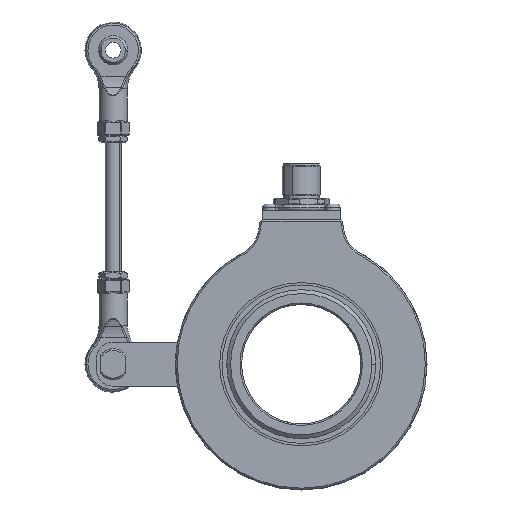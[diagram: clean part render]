
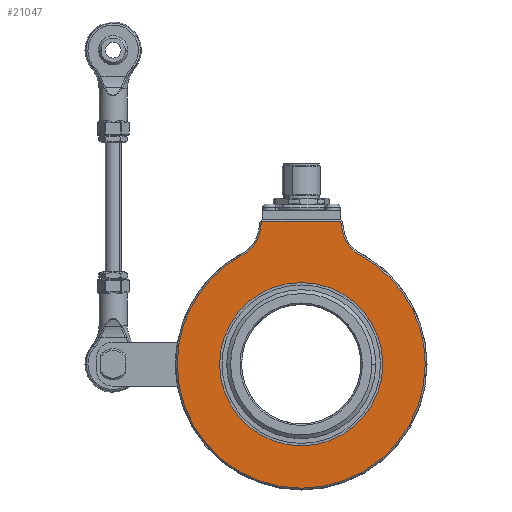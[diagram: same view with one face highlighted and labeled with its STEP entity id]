
A CAD part, left-side view. The second image highlights one B-rep face of the part: STEP entity #21047.
In plain terms, the highlighted planar face has unit normal (-1, 0, 0).
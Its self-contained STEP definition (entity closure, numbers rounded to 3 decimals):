
#65 = EDGE_CURVE ( 'NONE', #10842, #7356, #21307, .T. ) ;
#95 = DIRECTION ( 'NONE',  ( 0., 0.174, -0.985 ) ) ;
#160 = DIRECTION ( 'NONE',  ( 0., 1., 0. ) ) ;
#458 = DIRECTION ( 'NONE',  ( 0., 0.174, 0.985 ) ) ;
#460 = DIRECTION ( 'NONE',  ( 0., -1., 0. ) ) ;
#811 = DIRECTION ( 'NONE',  ( 0., -1., 0. ) ) ;
#1147 = VECTOR ( 'NONE', #21194, 1000. ) ;
#1293 = DIRECTION ( 'NONE',  ( 0., -1., 0. ) ) ;
#2011 = CARTESIAN_POINT ( 'NONE',  ( -26., 0., 0. ) ) ;
#2975 = EDGE_CURVE ( 'NONE', #8299, #11175, #5722, .T. ) ;
#3152 = VECTOR ( 'NONE', #458, 1000. ) ;
#3365 = ORIENTED_EDGE ( 'NONE', *, *, #18625, .T. ) ;
#3814 = EDGE_CURVE ( 'NONE', #17908, #10842, #12205, .T. ) ;
#3902 = VECTOR ( 'NONE', #95, 1000. ) ;
#4051 = CARTESIAN_POINT ( 'NONE',  ( -26., 26., 0. ) ) ;
#4184 = VERTEX_POINT ( 'NONE', #5367 ) ;
#4469 = CARTESIAN_POINT ( 'NONE',  ( -26., -18.776, 10.364 ) ) ;
#4944 = CARTESIAN_POINT ( 'NONE',  ( -26., -23.482, 44.143 ) ) ;
#5069 = CIRCLE ( 'NONE', #19940, 39.5 ) ;
#5367 = CARTESIAN_POINT ( 'NONE',  ( -26., 18.551, 34.873 ) ) ;
#5591 = CARTESIAN_POINT ( 'NONE',  ( -26., -39.5, 0. ) ) ;
#5722 = CIRCLE ( 'NONE', #8569, 26. ) ;
#7124 = EDGE_LOOP ( 'NONE', ( #17192, #9496 ) ) ;
#7126 = AXIS2_PLACEMENT_3D ( 'NONE', #16006, #18470, #811 ) ;
#7356 = VERTEX_POINT ( 'NONE', #14267 ) ;
#7368 = ORIENTED_EDGE ( 'NONE', *, *, #8755, .T. ) ;
#7812 = DIRECTION ( 'NONE',  ( 0., 1., 0. ) ) ;
#7894 = EDGE_CURVE ( 'NONE', #11175, #8299, #18160, .T. ) ;
#7896 = DIRECTION ( 'NONE',  ( -1., 0., 0. ) ) ;
#7955 = CIRCLE ( 'NONE', #7126, 39.5 ) ;
#8029 = VERTEX_POINT ( 'NONE', #24121 ) ;
#8299 = VERTEX_POINT ( 'NONE', #16043 ) ;
#8569 = AXIS2_PLACEMENT_3D ( 'NONE', #2011, #11835, #7812 ) ;
#8755 = EDGE_CURVE ( 'NONE', #22167, #10495, #20545, .T. ) ;
#9496 = ORIENTED_EDGE ( 'NONE', *, *, #2975, .T. ) ;
#9556 = FACE_BOUND ( 'NONE', #7124, .T. ) ;
#9732 = AXIS2_PLACEMENT_3D ( 'NONE', #18479, #10017, #460 ) ;
#9741 = CARTESIAN_POINT ( 'NONE',  ( -26., -18.551, 34.873 ) ) ;
#9750 = AXIS2_PLACEMENT_3D ( 'NONE', #14090, #17495, #160 ) ;
#9905 = CARTESIAN_POINT ( 'NONE',  ( -26., 21.188, -3.317 ) ) ;
#10017 = DIRECTION ( 'NONE',  ( -1., 0., 0. ) ) ;
#10070 = FACE_OUTER_BOUND ( 'NONE', #16567, .T. ) ;
#10495 = VERTEX_POINT ( 'NONE', #5591 ) ;
#10842 = VERTEX_POINT ( 'NONE', #17780 ) ;
#11175 = VERTEX_POINT ( 'NONE', #4051 ) ;
#11752 = ORIENTED_EDGE ( 'NONE', *, *, #15464, .T. ) ;
#11835 = DIRECTION ( 'NONE',  ( 1., 0., 0. ) ) ;
#12090 = ORIENTED_EDGE ( 'NONE', *, *, #15536, .T. ) ;
#12205 = CIRCLE ( 'NONE', #12607, 10.5 ) ;
#12607 = AXIS2_PLACEMENT_3D ( 'NONE', #4944, #18263, #1293 ) ;
#13135 = VERTEX_POINT ( 'NONE', #14499 ) ;
#13538 = LINE ( 'NONE', #15297, #1147 ) ;
#13702 = CARTESIAN_POINT ( 'NONE',  ( -26., 40., 0. ) ) ;
#13943 = DIRECTION ( 'NONE',  ( -1., 0., 0. ) ) ;
#14090 = CARTESIAN_POINT ( 'NONE',  ( -26., 0., 0. ) ) ;
#14267 = CARTESIAN_POINT ( 'NONE',  ( -26., -12.58, 45.5 ) ) ;
#14499 = CARTESIAN_POINT ( 'NONE',  ( -26., 13.141, 42.32 ) ) ;
#15297 = CARTESIAN_POINT ( 'NONE',  ( -26., 40., 45.5 ) ) ;
#15464 = EDGE_CURVE ( 'NONE', #4184, #22167, #5069, .T. ) ;
#15536 = EDGE_CURVE ( 'NONE', #8029, #13135, #17306, .T. ) ;
#16006 = CARTESIAN_POINT ( 'NONE',  ( -26., 0., 0. ) ) ;
#16043 = CARTESIAN_POINT ( 'NONE',  ( -26., -26., 0. ) ) ;
#16087 = EDGE_CURVE ( 'NONE', #10495, #17908, #7955, .T. ) ;
#16184 = EDGE_CURVE ( 'NONE', #13135, #4184, #20758, .T. ) ;
#16567 = EDGE_LOOP ( 'NONE', ( #22563, #3365, #12090, #22144, #11752, #7368, #19528, #24289 ) ) ;
#16833 = DIRECTION ( 'NONE',  ( 1., 0., 0. ) ) ;
#17192 = ORIENTED_EDGE ( 'NONE', *, *, #7894, .T. ) ;
#17306 = LINE ( 'NONE', #9905, #3902 ) ;
#17471 = DIRECTION ( 'NONE',  ( 0., -1., 0. ) ) ;
#17495 = DIRECTION ( 'NONE',  ( 1., 0., 0. ) ) ;
#17721 = PLANE ( 'NONE',  #19716 ) ;
#17780 = CARTESIAN_POINT ( 'NONE',  ( -26., -13.141, 42.32 ) ) ;
#17908 = VERTEX_POINT ( 'NONE', #9741 ) ;
#18160 = CIRCLE ( 'NONE', #9750, 26. ) ;
#18263 = DIRECTION ( 'NONE',  ( 1., 0., 0. ) ) ;
#18470 = DIRECTION ( 'NONE',  ( -1., 0., 0. ) ) ;
#18479 = CARTESIAN_POINT ( 'NONE',  ( -26., 0., 0. ) ) ;
#18625 = EDGE_CURVE ( 'NONE', #7356, #8029, #13538, .T. ) ;
#19313 = DIRECTION ( 'NONE',  ( 0., -1., 0. ) ) ;
#19528 = ORIENTED_EDGE ( 'NONE', *, *, #16087, .T. ) ;
#19716 = AXIS2_PLACEMENT_3D ( 'NONE', #13702, #13943, #17471 ) ;
#19940 = AXIS2_PLACEMENT_3D ( 'NONE', #23460, #7896, #19313 ) ;
#20545 = CIRCLE ( 'NONE', #9732, 39.5 ) ;
#20758 = CIRCLE ( 'NONE', #24370, 10.5 ) ;
#21047 = ADVANCED_FACE ( 'NONE', ( #10070, #9556 ), #17721, .T. ) ;
#21194 = DIRECTION ( 'NONE',  ( 0., 1., 0. ) ) ;
#21307 = LINE ( 'NONE', #4469, #3152 ) ;
#22144 = ORIENTED_EDGE ( 'NONE', *, *, #16184, .T. ) ;
#22167 = VERTEX_POINT ( 'NONE', #23267 ) ;
#22563 = ORIENTED_EDGE ( 'NONE', *, *, #65, .T. ) ;
#22868 = CARTESIAN_POINT ( 'NONE',  ( -26., 23.482, 44.143 ) ) ;
#23267 = CARTESIAN_POINT ( 'NONE',  ( -26., 39.5, 0. ) ) ;
#23460 = CARTESIAN_POINT ( 'NONE',  ( -26., 0., 0. ) ) ;
#24121 = CARTESIAN_POINT ( 'NONE',  ( -26., 12.58, 45.5 ) ) ;
#24289 = ORIENTED_EDGE ( 'NONE', *, *, #3814, .T. ) ;
#24370 = AXIS2_PLACEMENT_3D ( 'NONE', #22868, #16833, #24745 ) ;
#24745 = DIRECTION ( 'NONE',  ( 0., -1., 0. ) ) ;
